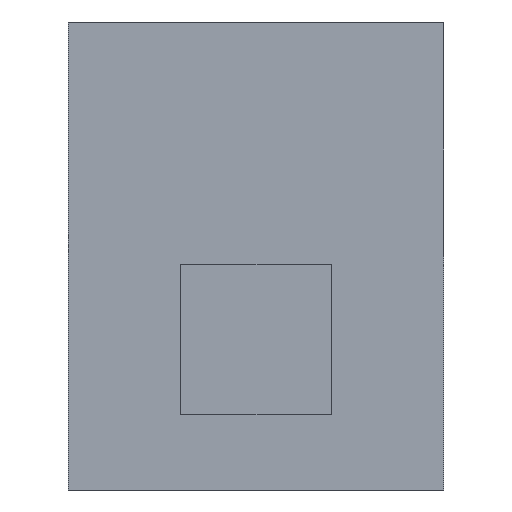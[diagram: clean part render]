
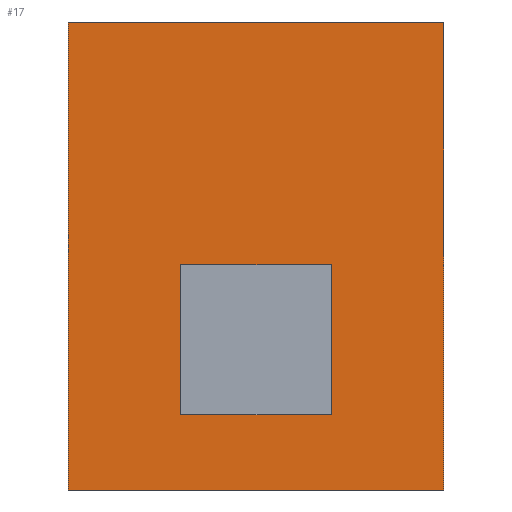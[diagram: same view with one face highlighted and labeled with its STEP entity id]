
A CAD part, left-side view. The second image highlights one B-rep face of the part: STEP entity #17.
In plain terms, the highlighted planar face has unit normal (-1, 0, 0).
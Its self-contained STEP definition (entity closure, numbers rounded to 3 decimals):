
#17 = ADVANCED_FACE('',(#18,#137),#32,.F.);
#18 = FACE_BOUND('',#19,.F.);
#19 = EDGE_LOOP('',(#20,#55,#83,#111));
#20 = ORIENTED_EDGE('',*,*,#21,.F.);
#21 = EDGE_CURVE('',#22,#24,#26,.T.);
#22 = VERTEX_POINT('',#23);
#23 = CARTESIAN_POINT('',(-12.,-15.,104.));
#24 = VERTEX_POINT('',#25);
#25 = CARTESIAN_POINT('',(-12.,-15.,141.381));
#26 = SURFACE_CURVE('',#27,(#31,#43),.PCURVE_S1.);
#27 = LINE('',#28,#29);
#28 = CARTESIAN_POINT('',(-12.,-15.,104.));
#29 = VECTOR('',#30,1.);
#30 = DIRECTION('',(0.,0.,1.));
#31 = PCURVE('',#32,#37);
#32 = PLANE('',#33);
#33 = AXIS2_PLACEMENT_3D('',#34,#35,#36);
#34 = CARTESIAN_POINT('',(-12.,-15.,104.));
#35 = DIRECTION('',(1.,0.,0.));
#36 = DIRECTION('',(0.,0.,1.));
#37 = DEFINITIONAL_REPRESENTATION('',(#38),#42);
#38 = LINE('',#39,#40);
#39 = CARTESIAN_POINT('',(0.,0.));
#40 = VECTOR('',#41,1.);
#41 = DIRECTION('',(1.,0.));
#42 = ( GEOMETRIC_REPRESENTATION_CONTEXT(2) 
PARAMETRIC_REPRESENTATION_CONTEXT() REPRESENTATION_CONTEXT('2D SPACE',''
  ) );
#43 = PCURVE('',#44,#49);
#44 = PLANE('',#45);
#45 = AXIS2_PLACEMENT_3D('',#46,#47,#48);
#46 = CARTESIAN_POINT('',(-12.,-15.,104.));
#47 = DIRECTION('',(0.,1.,0.));
#48 = DIRECTION('',(0.,0.,1.));
#49 = DEFINITIONAL_REPRESENTATION('',(#50),#54);
#50 = LINE('',#51,#52);
#51 = CARTESIAN_POINT('',(0.,0.));
#52 = VECTOR('',#53,1.);
#53 = DIRECTION('',(1.,0.));
#54 = ( GEOMETRIC_REPRESENTATION_CONTEXT(2) 
PARAMETRIC_REPRESENTATION_CONTEXT() REPRESENTATION_CONTEXT('2D SPACE',''
  ) );
#55 = ORIENTED_EDGE('',*,*,#56,.T.);
#56 = EDGE_CURVE('',#22,#57,#59,.T.);
#57 = VERTEX_POINT('',#58);
#58 = CARTESIAN_POINT('',(-12.,15.,104.));
#59 = SURFACE_CURVE('',#60,(#64,#71),.PCURVE_S1.);
#60 = LINE('',#61,#62);
#61 = CARTESIAN_POINT('',(-12.,-15.,104.));
#62 = VECTOR('',#63,1.);
#63 = DIRECTION('',(0.,1.,0.));
#64 = PCURVE('',#32,#65);
#65 = DEFINITIONAL_REPRESENTATION('',(#66),#70);
#66 = LINE('',#67,#68);
#67 = CARTESIAN_POINT('',(0.,0.));
#68 = VECTOR('',#69,1.);
#69 = DIRECTION('',(0.,-1.));
#70 = ( GEOMETRIC_REPRESENTATION_CONTEXT(2) 
PARAMETRIC_REPRESENTATION_CONTEXT() REPRESENTATION_CONTEXT('2D SPACE',''
  ) );
#71 = PCURVE('',#72,#77);
#72 = PLANE('',#73);
#73 = AXIS2_PLACEMENT_3D('',#74,#75,#76);
#74 = CARTESIAN_POINT('',(-12.,-15.,104.));
#75 = DIRECTION('',(0.,0.,1.));
#76 = DIRECTION('',(1.,0.,0.));
#77 = DEFINITIONAL_REPRESENTATION('',(#78),#82);
#78 = LINE('',#79,#80);
#79 = CARTESIAN_POINT('',(0.,0.));
#80 = VECTOR('',#81,1.);
#81 = DIRECTION('',(0.,1.));
#82 = ( GEOMETRIC_REPRESENTATION_CONTEXT(2) 
PARAMETRIC_REPRESENTATION_CONTEXT() REPRESENTATION_CONTEXT('2D SPACE',''
  ) );
#83 = ORIENTED_EDGE('',*,*,#84,.T.);
#84 = EDGE_CURVE('',#57,#85,#87,.T.);
#85 = VERTEX_POINT('',#86);
#86 = CARTESIAN_POINT('',(-12.,15.,141.381));
#87 = SURFACE_CURVE('',#88,(#92,#99),.PCURVE_S1.);
#88 = LINE('',#89,#90);
#89 = CARTESIAN_POINT('',(-12.,15.,104.));
#90 = VECTOR('',#91,1.);
#91 = DIRECTION('',(0.,0.,1.));
#92 = PCURVE('',#32,#93);
#93 = DEFINITIONAL_REPRESENTATION('',(#94),#98);
#94 = LINE('',#95,#96);
#95 = CARTESIAN_POINT('',(0.,-30.));
#96 = VECTOR('',#97,1.);
#97 = DIRECTION('',(1.,0.));
#98 = ( GEOMETRIC_REPRESENTATION_CONTEXT(2) 
PARAMETRIC_REPRESENTATION_CONTEXT() REPRESENTATION_CONTEXT('2D SPACE',''
  ) );
#99 = PCURVE('',#100,#105);
#100 = PLANE('',#101);
#101 = AXIS2_PLACEMENT_3D('',#102,#103,#104);
#102 = CARTESIAN_POINT('',(-12.,15.,104.));
#103 = DIRECTION('',(0.,1.,0.));
#104 = DIRECTION('',(0.,0.,1.));
#105 = DEFINITIONAL_REPRESENTATION('',(#106),#110);
#106 = LINE('',#107,#108);
#107 = CARTESIAN_POINT('',(0.,0.));
#108 = VECTOR('',#109,1.);
#109 = DIRECTION('',(1.,0.));
#110 = ( GEOMETRIC_REPRESENTATION_CONTEXT(2) 
PARAMETRIC_REPRESENTATION_CONTEXT() REPRESENTATION_CONTEXT('2D SPACE',''
  ) );
#111 = ORIENTED_EDGE('',*,*,#112,.F.);
#112 = EDGE_CURVE('',#24,#85,#113,.T.);
#113 = SURFACE_CURVE('',#114,(#118,#125),.PCURVE_S1.);
#114 = LINE('',#115,#116);
#115 = CARTESIAN_POINT('',(-12.,-15.,141.381));
#116 = VECTOR('',#117,1.);
#117 = DIRECTION('',(0.,1.,0.));
#118 = PCURVE('',#32,#119);
#119 = DEFINITIONAL_REPRESENTATION('',(#120),#124);
#120 = LINE('',#121,#122);
#121 = CARTESIAN_POINT('',(37.381,0.));
#122 = VECTOR('',#123,1.);
#123 = DIRECTION('',(0.,-1.));
#124 = ( GEOMETRIC_REPRESENTATION_CONTEXT(2) 
PARAMETRIC_REPRESENTATION_CONTEXT() REPRESENTATION_CONTEXT('2D SPACE',''
  ) );
#125 = PCURVE('',#126,#131);
#126 = PLANE('',#127);
#127 = AXIS2_PLACEMENT_3D('',#128,#129,#130);
#128 = CARTESIAN_POINT('',(-12.,-15.,141.381));
#129 = DIRECTION('',(0.,0.,1.));
#130 = DIRECTION('',(1.,0.,0.));
#131 = DEFINITIONAL_REPRESENTATION('',(#132),#136);
#132 = LINE('',#133,#134);
#133 = CARTESIAN_POINT('',(0.,0.));
#134 = VECTOR('',#135,1.);
#135 = DIRECTION('',(0.,1.));
#136 = ( GEOMETRIC_REPRESENTATION_CONTEXT(2) 
PARAMETRIC_REPRESENTATION_CONTEXT() REPRESENTATION_CONTEXT('2D SPACE',''
  ) );
#137 = FACE_BOUND('',#138,.F.);
#138 = EDGE_LOOP('',(#139,#167,#193,#219));
#139 = ORIENTED_EDGE('',*,*,#140,.T.);
#140 = EDGE_CURVE('',#141,#143,#145,.T.);
#141 = VERTEX_POINT('',#142);
#142 = CARTESIAN_POINT('',(-12.,6.,110.));
#143 = VERTEX_POINT('',#144);
#144 = CARTESIAN_POINT('',(-12.,-6.,110.));
#145 = SURFACE_CURVE('',#146,(#150,#156),.PCURVE_S1.);
#146 = LINE('',#147,#148);
#147 = CARTESIAN_POINT('',(-12.,-10.5,110.));
#148 = VECTOR('',#149,1.);
#149 = DIRECTION('',(0.,-1.,0.));
#150 = PCURVE('',#32,#151);
#151 = DEFINITIONAL_REPRESENTATION('',(#152),#155);
#152 = B_SPLINE_CURVE_WITH_KNOTS('',1,(#153,#154),.UNSPECIFIED.,.F.,.F.,
  (2,2),(-16.5,-4.5),.PIECEWISE_BEZIER_KNOTS.);
#153 = CARTESIAN_POINT('',(6.,-21.));
#154 = CARTESIAN_POINT('',(6.,-9.));
#155 = ( GEOMETRIC_REPRESENTATION_CONTEXT(2) 
PARAMETRIC_REPRESENTATION_CONTEXT() REPRESENTATION_CONTEXT('2D SPACE',''
  ) );
#156 = PCURVE('',#157,#162);
#157 = PLANE('',#158);
#158 = AXIS2_PLACEMENT_3D('',#159,#160,#161);
#159 = CARTESIAN_POINT('',(-13.5,-6.,110.));
#160 = DIRECTION('',(0.,0.,1.));
#161 = DIRECTION('',(1.,0.,0.));
#162 = DEFINITIONAL_REPRESENTATION('',(#163),#166);
#163 = B_SPLINE_CURVE_WITH_KNOTS('',1,(#164,#165),.UNSPECIFIED.,.F.,.F.,
  (2,2),(-16.5,-4.5),.PIECEWISE_BEZIER_KNOTS.);
#164 = CARTESIAN_POINT('',(1.5,12.));
#165 = CARTESIAN_POINT('',(1.5,0.));
#166 = ( GEOMETRIC_REPRESENTATION_CONTEXT(2) 
PARAMETRIC_REPRESENTATION_CONTEXT() REPRESENTATION_CONTEXT('2D SPACE',''
  ) );
#167 = ORIENTED_EDGE('',*,*,#168,.T.);
#168 = EDGE_CURVE('',#143,#169,#171,.T.);
#169 = VERTEX_POINT('',#170);
#170 = CARTESIAN_POINT('',(-12.,-6.,122.));
#171 = SURFACE_CURVE('',#172,(#176,#182),.PCURVE_S1.);
#172 = LINE('',#173,#174);
#173 = CARTESIAN_POINT('',(-12.,-6.,107.));
#174 = VECTOR('',#175,1.);
#175 = DIRECTION('',(0.,0.,1.));
#176 = PCURVE('',#32,#177);
#177 = DEFINITIONAL_REPRESENTATION('',(#178),#181);
#178 = B_SPLINE_CURVE_WITH_KNOTS('',1,(#179,#180),.UNSPECIFIED.,.F.,.F.,
  (2,2),(3.,15.),.PIECEWISE_BEZIER_KNOTS.);
#179 = CARTESIAN_POINT('',(6.,-9.));
#180 = CARTESIAN_POINT('',(18.,-9.));
#181 = ( GEOMETRIC_REPRESENTATION_CONTEXT(2) 
PARAMETRIC_REPRESENTATION_CONTEXT() REPRESENTATION_CONTEXT('2D SPACE',''
  ) );
#182 = PCURVE('',#183,#188);
#183 = PLANE('',#184);
#184 = AXIS2_PLACEMENT_3D('',#185,#186,#187);
#185 = CARTESIAN_POINT('',(-13.5,-6.,110.));
#186 = DIRECTION('',(0.,1.,0.));
#187 = DIRECTION('',(0.,0.,1.));
#188 = DEFINITIONAL_REPRESENTATION('',(#189),#192);
#189 = B_SPLINE_CURVE_WITH_KNOTS('',1,(#190,#191),.UNSPECIFIED.,.F.,.F.,
  (2,2),(3.,15.),.PIECEWISE_BEZIER_KNOTS.);
#190 = CARTESIAN_POINT('',(0.,1.5));
#191 = CARTESIAN_POINT('',(12.,1.5));
#192 = ( GEOMETRIC_REPRESENTATION_CONTEXT(2) 
PARAMETRIC_REPRESENTATION_CONTEXT() REPRESENTATION_CONTEXT('2D SPACE',''
  ) );
#193 = ORIENTED_EDGE('',*,*,#194,.F.);
#194 = EDGE_CURVE('',#195,#169,#197,.T.);
#195 = VERTEX_POINT('',#196);
#196 = CARTESIAN_POINT('',(-12.,6.,122.));
#197 = SURFACE_CURVE('',#198,(#202,#208),.PCURVE_S1.);
#198 = LINE('',#199,#200);
#199 = CARTESIAN_POINT('',(-12.,-10.5,122.));
#200 = VECTOR('',#201,1.);
#201 = DIRECTION('',(0.,-1.,0.));
#202 = PCURVE('',#32,#203);
#203 = DEFINITIONAL_REPRESENTATION('',(#204),#207);
#204 = B_SPLINE_CURVE_WITH_KNOTS('',1,(#205,#206),.UNSPECIFIED.,.F.,.F.,
  (2,2),(-16.5,-4.5),.PIECEWISE_BEZIER_KNOTS.);
#205 = CARTESIAN_POINT('',(18.,-21.));
#206 = CARTESIAN_POINT('',(18.,-9.));
#207 = ( GEOMETRIC_REPRESENTATION_CONTEXT(2) 
PARAMETRIC_REPRESENTATION_CONTEXT() REPRESENTATION_CONTEXT('2D SPACE',''
  ) );
#208 = PCURVE('',#209,#214);
#209 = PLANE('',#210);
#210 = AXIS2_PLACEMENT_3D('',#211,#212,#213);
#211 = CARTESIAN_POINT('',(-13.5,-6.,122.));
#212 = DIRECTION('',(0.,0.,1.));
#213 = DIRECTION('',(1.,0.,0.));
#214 = DEFINITIONAL_REPRESENTATION('',(#215),#218);
#215 = B_SPLINE_CURVE_WITH_KNOTS('',1,(#216,#217),.UNSPECIFIED.,.F.,.F.,
  (2,2),(-16.5,-4.5),.PIECEWISE_BEZIER_KNOTS.);
#216 = CARTESIAN_POINT('',(1.5,12.));
#217 = CARTESIAN_POINT('',(1.5,0.));
#218 = ( GEOMETRIC_REPRESENTATION_CONTEXT(2) 
PARAMETRIC_REPRESENTATION_CONTEXT() REPRESENTATION_CONTEXT('2D SPACE',''
  ) );
#219 = ORIENTED_EDGE('',*,*,#220,.F.);
#220 = EDGE_CURVE('',#141,#195,#221,.T.);
#221 = SURFACE_CURVE('',#222,(#226,#232),.PCURVE_S1.);
#222 = LINE('',#223,#224);
#223 = CARTESIAN_POINT('',(-12.,6.,107.));
#224 = VECTOR('',#225,1.);
#225 = DIRECTION('',(0.,0.,1.));
#226 = PCURVE('',#32,#227);
#227 = DEFINITIONAL_REPRESENTATION('',(#228),#231);
#228 = B_SPLINE_CURVE_WITH_KNOTS('',1,(#229,#230),.UNSPECIFIED.,.F.,.F.,
  (2,2),(3.,15.),.PIECEWISE_BEZIER_KNOTS.);
#229 = CARTESIAN_POINT('',(6.,-21.));
#230 = CARTESIAN_POINT('',(18.,-21.));
#231 = ( GEOMETRIC_REPRESENTATION_CONTEXT(2) 
PARAMETRIC_REPRESENTATION_CONTEXT() REPRESENTATION_CONTEXT('2D SPACE',''
  ) );
#232 = PCURVE('',#233,#238);
#233 = PLANE('',#234);
#234 = AXIS2_PLACEMENT_3D('',#235,#236,#237);
#235 = CARTESIAN_POINT('',(-13.5,6.,110.));
#236 = DIRECTION('',(0.,1.,0.));
#237 = DIRECTION('',(0.,0.,1.));
#238 = DEFINITIONAL_REPRESENTATION('',(#239),#242);
#239 = B_SPLINE_CURVE_WITH_KNOTS('',1,(#240,#241),.UNSPECIFIED.,.F.,.F.,
  (2,2),(3.,15.),.PIECEWISE_BEZIER_KNOTS.);
#240 = CARTESIAN_POINT('',(0.,1.5));
#241 = CARTESIAN_POINT('',(12.,1.5));
#242 = ( GEOMETRIC_REPRESENTATION_CONTEXT(2) 
PARAMETRIC_REPRESENTATION_CONTEXT() REPRESENTATION_CONTEXT('2D SPACE',''
  ) );
